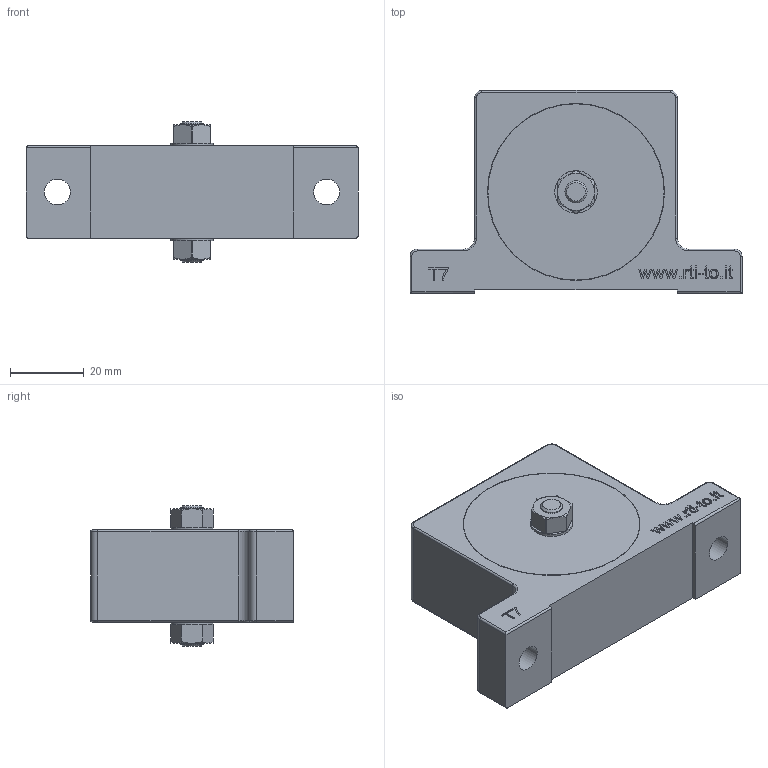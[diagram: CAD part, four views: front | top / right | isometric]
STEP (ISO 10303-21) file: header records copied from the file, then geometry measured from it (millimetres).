
FILE_DESCRIPTION((''),'2;1');
FILE_NAME('D:\UFFICIO TECNICO\PROGETTI PER PROTOTIPI\VIBRATORE - T7\VIBR. T7.stp','2015-09-14T17:58:52',('Piero'),(''),'Autodesk Inventor 2011','Autodesk Inventor 2011','');
FILE_SCHEMA(('CONFIG_CONTROL_DESIGN'));
Length unit declared in the file: millimetre
Products named in the file (1): T7
Bounding box: 90 x 55 x 38 mm (x, y, z)
Volume: 83643.4 mm3; surface area: 16943.2 mm2
Topology: 1 solids, 1 shells, 305 faces, 794 edges, 517 vertices
Faces by surface type: plane 198, cylinder 47, bspline 32, cone 16, torus 12
Full cylindrical faces by diameter (mm): 6 x2, 7 x2, 8.566 x2, 11.5 x2, 47.8 x2, 48 x2
Entity records: 9293 total; most frequent: CARTESIAN_POINT 2060, ORIENTED_EDGE 1536, DIRECTION 1352, EDGE_CURVE 768, VECTOR 552, LINE 552, VERTEX_POINT 507, AXIS2_PLACEMENT_3D 400
